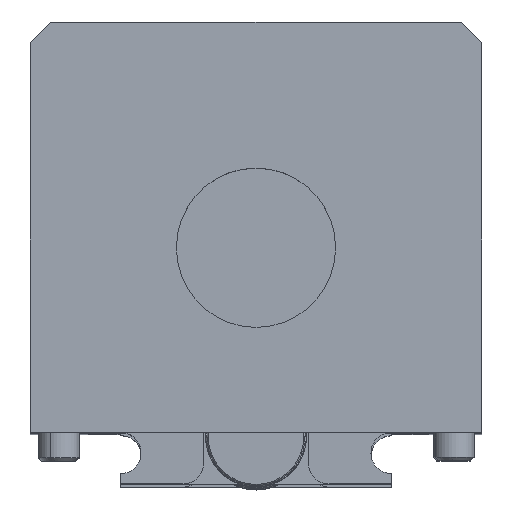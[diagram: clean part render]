
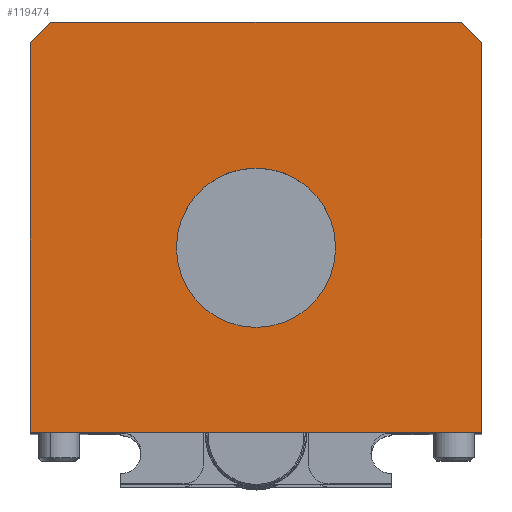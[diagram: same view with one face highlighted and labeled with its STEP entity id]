
A CAD part, top view. The second image highlights one B-rep face of the part: STEP entity #119474.
In plain terms, the highlighted planar face has unit normal (0, 0, 1).
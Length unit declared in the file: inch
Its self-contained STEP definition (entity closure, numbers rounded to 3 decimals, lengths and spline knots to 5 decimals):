
#3196 = DIRECTION ( 'NONE',  ( 0., -1., 0. ) ) ;
#3417 = CARTESIAN_POINT ( 'NONE',  ( -2.26179, -1.29836, 9.46828 ) ) ;
#3917 = VERTEX_POINT ( 'NONE', #61481 ) ;
#7442 = CARTESIAN_POINT ( 'NONE',  ( -2.26179, -1.29836, 9.46828 ) ) ;
#13099 = EDGE_CURVE ( 'NONE', #137264, #90874, #31830, .T. ) ;
#13621 = ORIENTED_EDGE ( 'NONE', *, *, #153621, .T. ) ;
#15453 = DIRECTION ( 'NONE',  ( 1., 0., 0. ) ) ;
#16697 = ORIENTED_EDGE ( 'NONE', *, *, #13099, .T. ) ;
#16723 = EDGE_CURVE ( 'NONE', #32701, #64199, #21346, .T. ) ;
#18588 = CARTESIAN_POINT ( 'NONE',  ( -3.44929, -0.11086, 9.46828 ) ) ;
#19609 = CARTESIAN_POINT ( 'NONE',  ( 0.48821, 1.20164, 9.46828 ) ) ;
#20835 = LINE ( 'NONE', #25237, #28746 ) ;
#21346 = LINE ( 'NONE', #7442, #159285 ) ;
#22245 = AXIS2_PLACEMENT_3D ( 'NONE', #41296, #80436, #15453 ) ;
#25237 = CARTESIAN_POINT ( 'NONE',  ( -2.26179, 1.20164, 9.46828 ) ) ;
#28746 = VECTOR ( 'NONE', #114933, 39.37008 ) ;
#29908 = FACE_BOUND ( 'NONE', #158365, .T. ) ;
#31830 = LINE ( 'NONE', #160151, #61405 ) ;
#32019 = CARTESIAN_POINT ( 'NONE',  ( 0.48821, 1.07664, 9.46828 ) ) ;
#32701 = VERTEX_POINT ( 'NONE', #3417 ) ;
#32752 = VERTEX_POINT ( 'NONE', #66175 ) ;
#34939 = CIRCLE ( 'NONE', #72397, 0.485 ) ;
#40250 = ORIENTED_EDGE ( 'NONE', *, *, #16723, .T. ) ;
#41296 = CARTESIAN_POINT ( 'NONE',  ( -2.26179, -1.29836, 9.46828 ) ) ;
#43372 = ORIENTED_EDGE ( 'NONE', *, *, #88963, .T. ) ;
#44799 = EDGE_LOOP ( 'NONE', ( #13621, #16697, #114578, #43372, #99641, #40250 ) ) ;
#46455 = ORIENTED_EDGE ( 'NONE', *, *, #61916, .F. ) ;
#61405 = VECTOR ( 'NONE', #130999, 39.37008 ) ;
#61481 = CARTESIAN_POINT ( 'NONE',  ( -1.37179, -0.17336, 9.46828 ) ) ;
#61916 = EDGE_CURVE ( 'NONE', #104918, #3917, #34939, .T. ) ;
#64199 = VERTEX_POINT ( 'NONE', #117695 ) ;
#65048 = ORIENTED_EDGE ( 'NONE', *, *, #135297, .F. ) ;
#66118 = VECTOR ( 'NONE', #3196, 39.37008 ) ;
#66175 = CARTESIAN_POINT ( 'NONE',  ( -2.26179, 1.07664, 9.46828 ) ) ;
#69227 = FACE_OUTER_BOUND ( 'NONE', #44799, .T. ) ;
#69951 = CARTESIAN_POINT ( 'NONE',  ( 0.36321, 1.20164, 9.46828 ) ) ;
#72397 = AXIS2_PLACEMENT_3D ( 'NONE', #128262, #91328, #78130 ) ;
#75338 = DIRECTION ( 'NONE',  ( 1., 0., 0. ) ) ;
#77876 = VECTOR ( 'NONE', #119905, 39.37008 ) ;
#78130 = DIRECTION ( 'NONE',  ( 1., 0., 0. ) ) ;
#80436 = DIRECTION ( 'NONE',  ( 0., 0., 1. ) ) ;
#88963 = EDGE_CURVE ( 'NONE', #104623, #32752, #152827, .T. ) ;
#90143 = CARTESIAN_POINT ( 'NONE',  ( -0.88679, -0.17336, 9.46828 ) ) ;
#90874 = VERTEX_POINT ( 'NONE', #69951 ) ;
#91328 = DIRECTION ( 'NONE',  ( 0., 0., 1. ) ) ;
#91955 = PLANE ( 'NONE',  #22245 ) ;
#99641 = ORIENTED_EDGE ( 'NONE', *, *, #124614, .T. ) ;
#99796 = AXIS2_PLACEMENT_3D ( 'NONE', #90143, #113325, #75338 ) ;
#104623 = VERTEX_POINT ( 'NONE', #132584 ) ;
#104918 = VERTEX_POINT ( 'NONE', #163411 ) ;
#113316 = LINE ( 'NONE', #117092, #66118 ) ;
#113325 = DIRECTION ( 'NONE',  ( 0., 0., 1. ) ) ;
#114578 = ORIENTED_EDGE ( 'NONE', *, *, #146693, .T. ) ;
#114933 = DIRECTION ( 'NONE',  ( -1., 0., 0. ) ) ;
#117092 = CARTESIAN_POINT ( 'NONE',  ( -2.26179, 1.20164, 9.46828 ) ) ;
#117695 = CARTESIAN_POINT ( 'NONE',  ( 0.48821, -1.29836, 9.46828 ) ) ;
#119474 = ADVANCED_FACE ( 'NONE', ( #29908, #69227 ), #91955, .T. ) ;
#119905 = DIRECTION ( 'NONE',  ( -0.707, -0.707, 0. ) ) ;
#124614 = EDGE_CURVE ( 'NONE', #32752, #32701, #113316, .T. ) ;
#125182 = VECTOR ( 'NONE', #158923, 39.37008 ) ;
#128262 = CARTESIAN_POINT ( 'NONE',  ( -0.88679, -0.17336, 9.46828 ) ) ;
#130999 = DIRECTION ( 'NONE',  ( -0.707, 0.707, 0. ) ) ;
#132584 = CARTESIAN_POINT ( 'NONE',  ( -2.13679, 1.20164, 9.46828 ) ) ;
#135297 = EDGE_CURVE ( 'NONE', #3917, #104918, #158622, .T. ) ;
#137264 = VERTEX_POINT ( 'NONE', #32019 ) ;
#146693 = EDGE_CURVE ( 'NONE', #90874, #104623, #20835, .T. ) ;
#150610 = DIRECTION ( 'NONE',  ( 1., 0., 0. ) ) ;
#152827 = LINE ( 'NONE', #18588, #77876 ) ;
#153621 = EDGE_CURVE ( 'NONE', #64199, #137264, #158719, .T. ) ;
#158365 = EDGE_LOOP ( 'NONE', ( #65048, #46455 ) ) ;
#158622 = CIRCLE ( 'NONE', #99796, 0.485 ) ;
#158719 = LINE ( 'NONE', #19609, #125182 ) ;
#158923 = DIRECTION ( 'NONE',  ( 0., 1., 0. ) ) ;
#159285 = VECTOR ( 'NONE', #150610, 39.37008 ) ;
#160151 = CARTESIAN_POINT ( 'NONE',  ( 0.30071, 1.26414, 9.46828 ) ) ;
#163411 = CARTESIAN_POINT ( 'NONE',  ( -0.40179, -0.17336, 9.46828 ) ) ;
